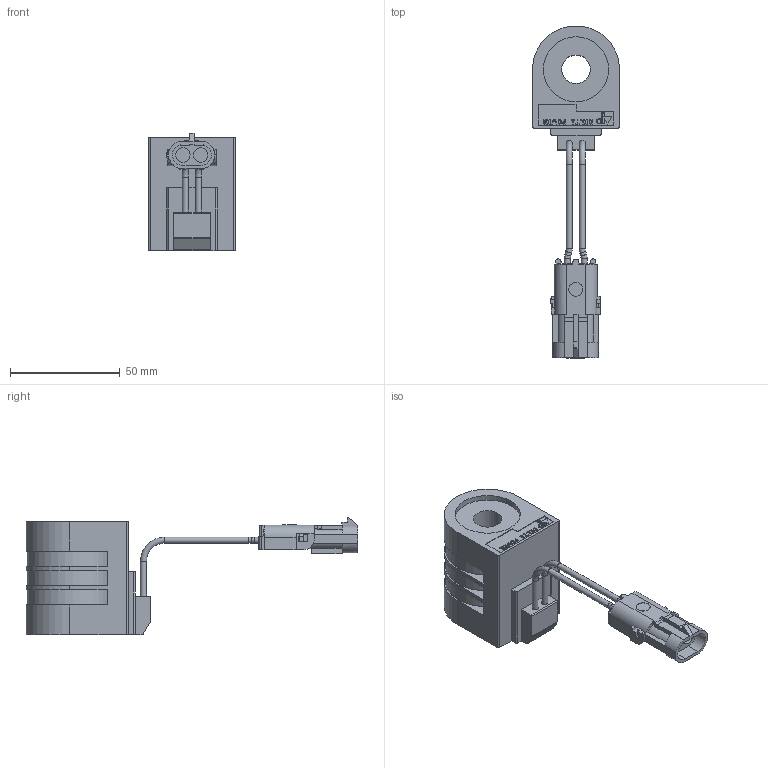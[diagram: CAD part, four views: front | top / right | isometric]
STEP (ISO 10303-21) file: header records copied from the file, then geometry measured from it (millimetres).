
FILE_DESCRIPTION((''),'2;1');
FILE_NAME('U:\Solid model CD\Solid model full\Coils\STEP\DWL.stp','2009-01-16T15:00:29',('Dan'),(''),'Autodesk Inventor 2009','Autodesk Inventor 2009','');
FILE_SCHEMA(('AUTOMOTIVE_DESIGN { 1 0 10303 214 1 1 1 1 }'));
Length unit declared in the file: inch
Products named in the file (3): DWL; DWL1; DWL2
Assembly tree (2 placements, depth 2):
  DWL
    DWL1
    DWL2
Bounding box: 39.62 x 151.43 x 53.48 mm (x, y, z)
Volume: 85266.3 mm3; surface area: 23253.2 mm2
Topology: 15 solids, 15 shells, 372 faces, 986 edges, 647 vertices
Faces by surface type: plane 292, cylinder 66, bspline 8, torus 6
Full cylindrical faces by diameter (mm): 2.794 x8, 6.35 x1, 6.604 x2, 13.005 x1, 29.694 x2
Entity records: 11449 total; most frequent: CARTESIAN_POINT 2012, ORIENTED_EDGE 1930, DIRECTION 1861, EDGE_CURVE 965, VECTOR 807, LINE 807, VERTEX_POINT 646, AXIS2_PLACEMENT_3D 527
